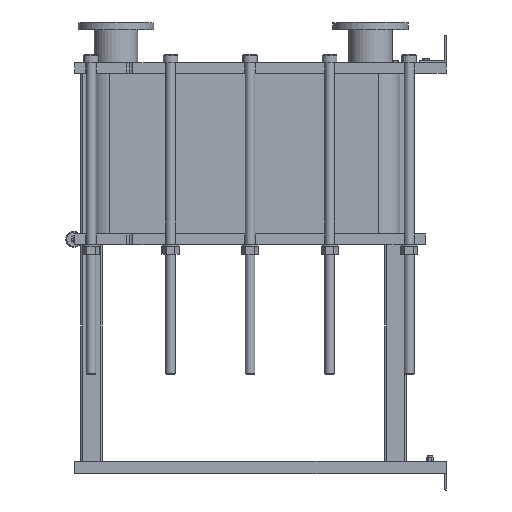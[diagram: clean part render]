
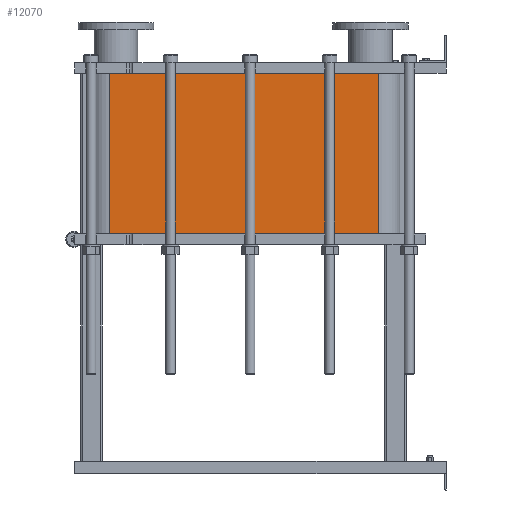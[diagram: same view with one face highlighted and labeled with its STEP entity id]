
A CAD part, left-side view. The second image highlights one B-rep face of the part: STEP entity #12070.
In plain terms, the highlighted planar face has unit normal (-1, 0, 0).
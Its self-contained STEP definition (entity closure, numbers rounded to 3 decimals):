
#1064=LINE('',#21140,#2164);
#1065=LINE('',#21144,#2165);
#1066=LINE('',#21146,#2166);
#1067=LINE('',#21147,#2167);
#2164=VECTOR('',#15790,10.);
#2165=VECTOR('',#15795,10.);
#2166=VECTOR('',#15796,10.);
#2167=VECTOR('',#15797,10.);
#3304=FACE_OUTER_BOUND('',#4091,.T.);
#4091=EDGE_LOOP('',(#9793,#9794,#9795,#9796));
#5677=VERTEX_POINT('',#21137);
#5678=VERTEX_POINT('',#21139);
#5679=VERTEX_POINT('',#21143);
#5680=VERTEX_POINT('',#21145);
#7118=EDGE_CURVE('',#5678,#5677,#1064,.T.);
#7120=EDGE_CURVE('',#5677,#5679,#1065,.T.);
#7121=EDGE_CURVE('',#5680,#5679,#1066,.T.);
#7122=EDGE_CURVE('',#5680,#5678,#1067,.T.);
#9793=ORIENTED_EDGE('',*,*,#7120,.T.);
#9794=ORIENTED_EDGE('',*,*,#7121,.F.);
#9795=ORIENTED_EDGE('',*,*,#7122,.T.);
#9796=ORIENTED_EDGE('',*,*,#7118,.T.);
#11441=PLANE('',#13191);
#12070=ADVANCED_FACE('',(#3304),#11441,.T.);
#13191=AXIS2_PLACEMENT_3D('',#21142,#15793,#15794);
#15790=DIRECTION('',(0.,0.,-1.));
#15793=DIRECTION('center_axis',(-1.,0.,0.));
#15794=DIRECTION('ref_axis',(0.,1.,0.));
#15795=DIRECTION('',(0.,-1.,0.));
#15796=DIRECTION('',(0.,0.,-1.));
#15797=DIRECTION('',(0.,1.,0.));
#21137=CARTESIAN_POINT('',(-248.152,1243.818,-593.4));
#21139=CARTESIAN_POINT('',(-248.152,1243.818,0.));
#21140=CARTESIAN_POINT('',(-248.152,1243.818,0.));
#21142=CARTESIAN_POINT('Origin',(-248.152,251.818,0.));
#21143=CARTESIAN_POINT('',(-248.152,251.818,-593.4));
#21144=CARTESIAN_POINT('',(-248.152,499.818,-593.4));
#21145=CARTESIAN_POINT('',(-248.152,251.818,0.));
#21146=CARTESIAN_POINT('',(-248.152,251.818,0.));
#21147=CARTESIAN_POINT('',(-248.152,251.818,0.));
